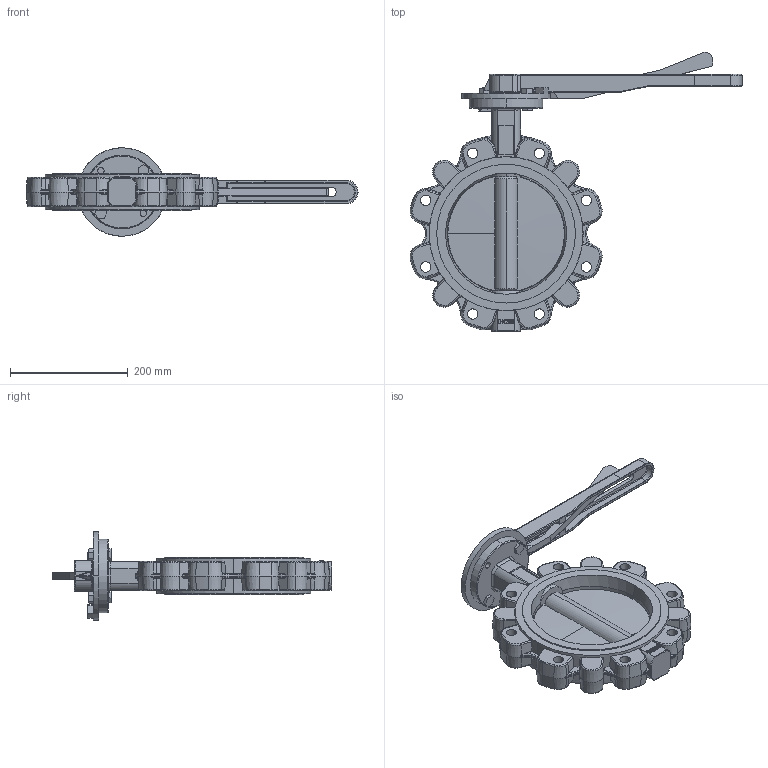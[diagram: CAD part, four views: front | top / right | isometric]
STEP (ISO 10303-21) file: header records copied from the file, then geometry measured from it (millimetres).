
FILE_DESCRIPTION (( 'STEP AP203' ), '1' );
FILE_NAME ('L9.DN200_PN10.STEP', '2019-03-14T14:38:03', ( '' ), ( '' ), 'SwSTEP 2.0', 'SolidWorks 2017', '' );
FILE_SCHEMA (( 'CONFIG_CONTROL_DESIGN' ));
Length unit declared in the file: millimetre
Products named in the file (1): L9.DN200_PN10
Bounding box: 562.92 x 473.4 x 150 mm (x, y, z)
Volume: 3713521.4 mm3; surface area: 432813.8 mm2
Topology: 1 solids, 1 shells, 1021 faces, 2537 edges, 1480 vertices
Faces by surface type: cylinder 264, plane 243, torus 183, bspline 175, cone 141, sphere 15
Entity records: 38707 total; most frequent: CARTESIAN_POINT 16137, ORIENTED_EDGE 4946, DIRECTION 4487, EDGE_CURVE 2473, AXIS2_PLACEMENT_3D 1820, VERTEX_POINT 1480, EDGE_LOOP 1069, FACE_OUTER_BOUND 1021
